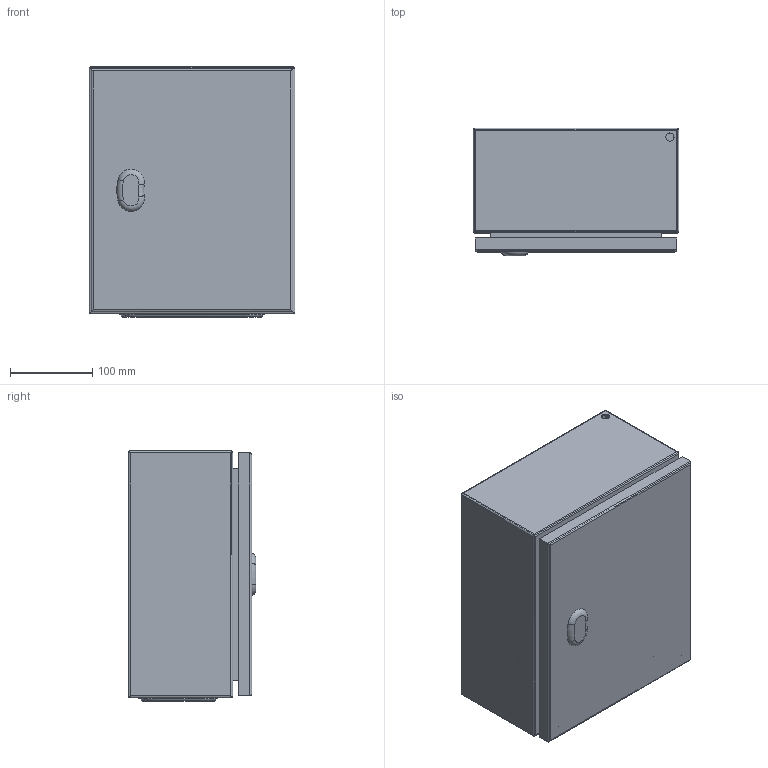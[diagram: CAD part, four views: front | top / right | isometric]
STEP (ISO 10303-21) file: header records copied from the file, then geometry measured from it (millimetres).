
FILE_DESCRIPTION(/* description */ ('STEP AP214'),/* implementation_level */ '2;1');
FILE_NAME(/* name */ 'EC025315-LOD400',/* time_stamp */ '2025-07-31T10:23:59+02:00',/* author */ ('License CC BY-ND 4.0'),/* organization */ ('CADENAS'),/* preprocessor_version */ 'ST-DEVELOPER v19.3',/* originating_system */ 'PARTsolutions',/* authorisation */ ' ');
FILE_SCHEMA (('AUTOMOTIVE_DESIGN {1 0 10303 214 3 1 1}'));
Length unit declared in the file: millimetre
Products named in the file (5): EC025315-LOD400; EC025315-LOD400_cabinet; EC025315-LOD400_door; EC025315-LOD400_bottom_plate; EC025315-LOD400_inner_plate
Assembly tree (4 placements, depth 2):
  EC025315-LOD400
    EC025315-LOD400_cabinet
    EC025315-LOD400_door
    EC025315-LOD400_bottom_plate
    EC025315-LOD400_inner_plate
Bounding box: 250 x 155 x 304 mm (x, y, z)
Volume: 615587.3 mm3; surface area: 834722.4 mm2
Topology: 4 solids, 4 shells, 362 faces, 888 edges, 568 vertices
Faces by surface type: plane 156, cylinder 136, torus 36, cone 34
Full cylindrical faces by diameter (mm): 1 x10, 4.5 x12, 5 x4, 5.5 x4, 6 x4, 8 x12, 10 x10, 14 x4
Entity records: 10251 total; most frequent: DIRECTION 1870, CARTESIAN_POINT 1673, ORIENTED_EDGE 1536, EDGE_CURVE 768, AXIS2_PLACEMENT_3D 735, EDGE_LOOP 556, FACE_BOUND 556, VERTEX_POINT 538
